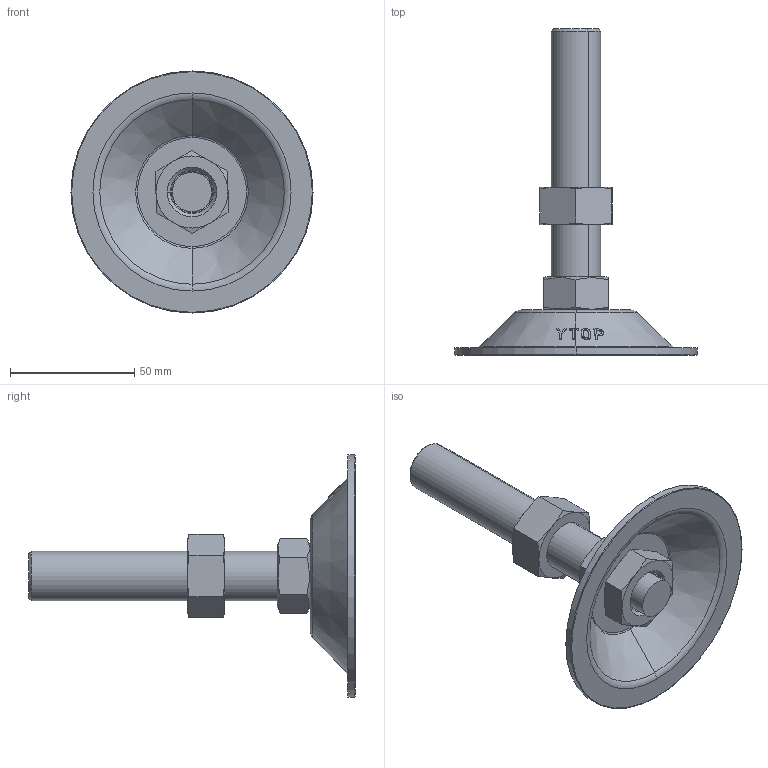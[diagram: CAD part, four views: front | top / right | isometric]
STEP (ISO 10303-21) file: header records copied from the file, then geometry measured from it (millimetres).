
FILE_DESCRIPTION (( 'STEP AP203' ), '1' );
FILE_NAME ('N-100-20100-S.STEP', '2020-09-10T08:08:36', ( '' ), ( '' ), 'SwSTEP 2.0', 'SolidWorks 2016', '' );
FILE_SCHEMA (( 'CONFIG_CONTROL_DESIGN' ));
Length unit declared in the file: millimetre
Products named in the file (5): H-100-3P H倰100菁釱; 脚垫调节六角螺母M20; 脚垫锁紧六角薄螺母M20; 不锈钢双头螺杆M20系列_M20X100; N-100-20100-S
Assembly tree (4 placements, depth 2):
  N-100-20100-S
    H-100-3P H倰100菁釱
    不锈钢双头螺杆M20系列_M20X100
    脚垫锁紧六角薄螺母M20
    脚垫调节六角螺母M20
Bounding box: 97.5 x 131.5 x 97.5 mm (x, y, z)
Volume: 80049.6 mm3; surface area: 32916 mm2
Topology: 4 solids, 4 shells, 144 faces, 335 edges, 208 vertices
Faces by surface type: cone 52, bspline 38, plane 30, torus 12, cylinder 12
Entity records: 8480 total; most frequent: CARTESIAN_POINT 5072, ORIENTED_EDGE 670, DIRECTION 475, EDGE_CURVE 335, AXIS2_PLACEMENT_3D 211, VERTEX_POINT 208, B_SPLINE_CURVE_WITH_KNOTS 184, EDGE_LOOP 159
